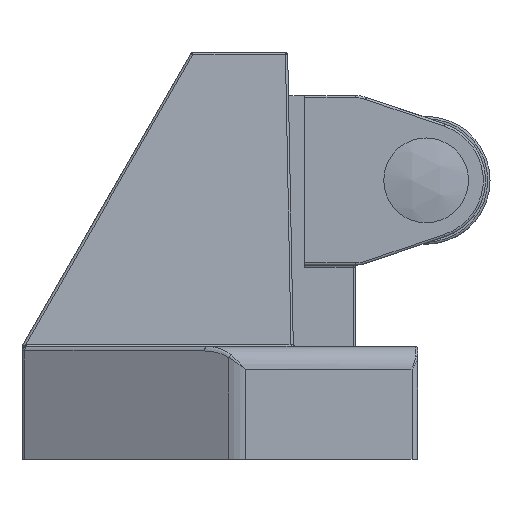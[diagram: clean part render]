
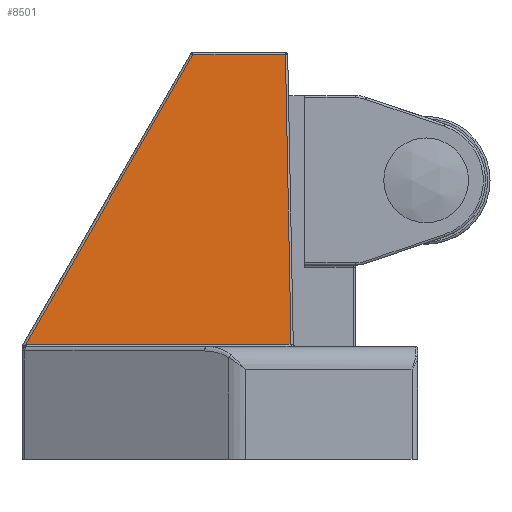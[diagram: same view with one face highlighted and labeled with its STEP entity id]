
A CAD part, front view. The second image highlights one B-rep face of the part: STEP entity #8501.
In plain terms, the highlighted planar face has unit normal (0, -0.999, 0.038) as drawn and (-0.999, 0, 0.038) by its records, which use the part's own axes.
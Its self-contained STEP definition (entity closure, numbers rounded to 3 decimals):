
#114=ELLIPSE('',#8927,0.6,0.6);
#382=LINE('',#12721,#1196);
#540=LINE('',#13699,#1354);
#542=LINE('',#13702,#1356);
#543=LINE('',#13704,#1357);
#1196=VECTOR('',#9833,23.396);
#1354=VECTOR('',#10285,29.593);
#1356=VECTOR('',#10289,8.188);
#1357=VECTOR('',#10292,25.639);
#2044=PLANE('',#9119);
#2455=FACE_OUTER_BOUND('',#2994,.T.);
#2994=EDGE_LOOP('',(#6562,#6563,#6564,#6565,#6566));
#3779=VERTEX_POINT('',#12684);
#3781=VERTEX_POINT('',#12713);
#3783=VERTEX_POINT('',#12719);
#3967=VERTEX_POINT('',#13670);
#3968=VERTEX_POINT('',#13674);
#4571=EDGE_CURVE('',#3781,#3779,#114,.T.);
#4574=EDGE_CURVE('',#3783,#3781,#382,.T.);
#4840=EDGE_CURVE('',#3779,#3968,#540,.T.);
#4842=EDGE_CURVE('',#3968,#3967,#542,.T.);
#4843=EDGE_CURVE('',#3967,#3783,#543,.T.);
#6562=ORIENTED_EDGE('',*,*,#4574,.F.);
#6563=ORIENTED_EDGE('',*,*,#4843,.F.);
#6564=ORIENTED_EDGE('',*,*,#4842,.F.);
#6565=ORIENTED_EDGE('',*,*,#4840,.F.);
#6566=ORIENTED_EDGE('',*,*,#4571,.F.);
#8501=ADVANCED_FACE('',(#2455),#2044,.T.);
#8927=AXIS2_PLACEMENT_3D('',#12715,#9825,#9826);
#9119=AXIS2_PLACEMENT_3D('',#14259,#10505,#10506);
#9825=DIRECTION('center_axis',(-0.999,0.,
0.038));
#9826=DIRECTION('ref_axis',(0.038,0.,0.999));
#9833=DIRECTION('',(0.,1.,0.));
#10285=DIRECTION('',(0.033,-0.499,0.866));
#10289=DIRECTION('',(0.,-1.,0.));
#10292=DIRECTION('',(-0.038,-0.019,-0.999));
#10505=DIRECTION('center_axis',(-0.999,0.,
0.038));
#10506=DIRECTION('ref_axis',(0.038,0.,0.999));
#12684=CARTESIAN_POINT('',(-15.243,34.665,10.189));
#12713=CARTESIAN_POINT('',(-15.243,34.6,10.192));
#12715=CARTESIAN_POINT('Origin',(-15.266,34.6,9.592));
#12719=CARTESIAN_POINT('',(-15.243,11.204,10.192));
#12721=CARTESIAN_POINT('',(-15.243,25.232,10.192));
#13670=CARTESIAN_POINT('',(-14.257,11.696,35.808));
#13674=CARTESIAN_POINT('',(-14.257,19.884,35.808));
#13699=CARTESIAN_POINT('',(-15.237,34.576,10.342));
#13702=CARTESIAN_POINT('',(-14.257,25.375,35.808));
#13704=CARTESIAN_POINT('',(-15.241,11.204,10.227));
#14259=CARTESIAN_POINT('Origin',(-15.25,35.,10.));
